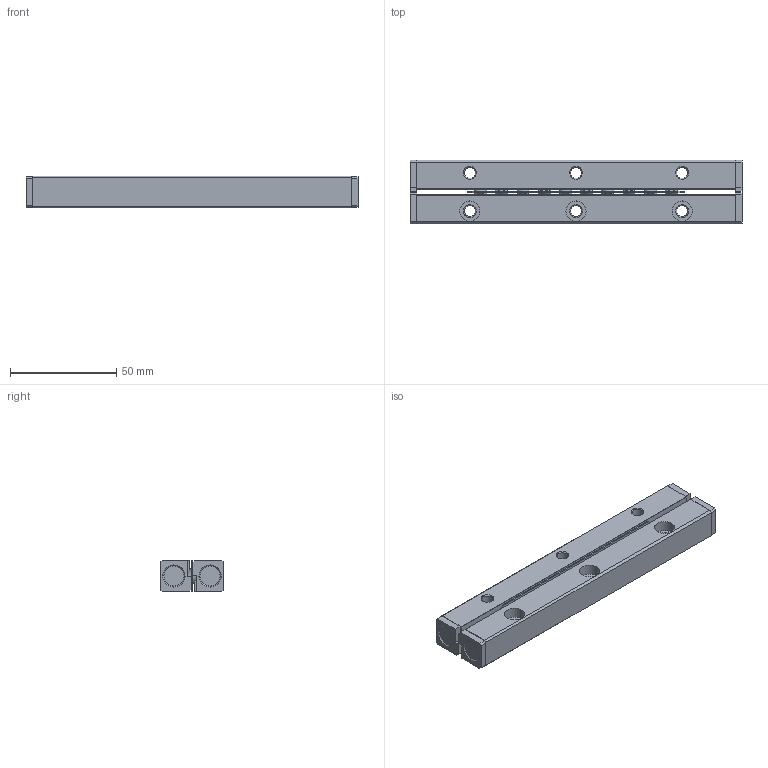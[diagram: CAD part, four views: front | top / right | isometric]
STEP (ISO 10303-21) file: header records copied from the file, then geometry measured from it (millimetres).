
FILE_DESCRIPTION(/* description */ ('Unknown'),/* implementation_level */ '2;1');
FILE_NAME(/* name */ 'VR6-150x10Z',/* time_stamp */ '2025-06-12T09:18:04+08:00',/* author */ ('Unknown'),/* organization */ ('Unknown'),/* preprocessor_version */ 'ST-DEVELOPER v18.102',/* originating_system */ 'Solid Edge',/* authorisation */ 'Unknown');
FILE_SCHEMA (('AUTOMOTIVE_DESIGN {1 0 10303 214 3 1 1}'));
Length unit declared in the file: millimetre
Products named in the file (3): VR6-150x10Z; VR6-150_10Z Roller guide; VR6-150_10Z Roller cage
Assembly tree (3 placements, depth 2):
  VR6-150x10Z
    VR6-150_10Z Roller guide  x2
    VR6-150_10Z Roller cage
Bounding box: 156.4 x 30 x 15 mm (x, y, z)
Volume: 59663 mm3; surface area: 24651.8 mm2
Topology: 3 solids, 3 shells, 228 faces, 596 edges, 384 vertices
Faces by surface type: plane 170, cone 36, cylinder 22
Full cylindrical faces by diameter (mm): 5.2 x6, 6 x10, 9.5 x6
Entity records: 5326 total; most frequent: CARTESIAN_POINT 899, DIRECTION 879, ORIENTED_EDGE 842, EDGE_CURVE 421, LINE 319, VECTOR 319, VERTEX_POINT 300, AXIS2_PLACEMENT_3D 280
